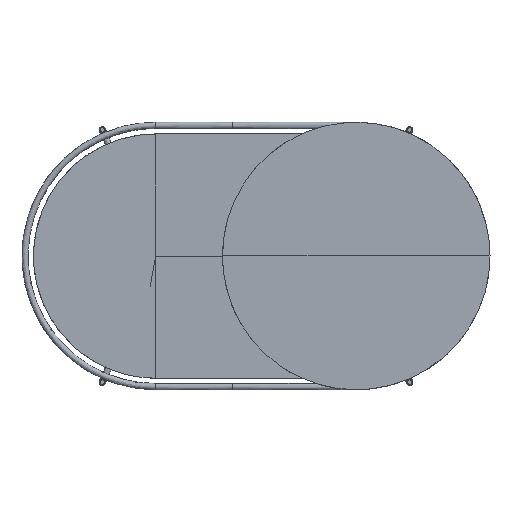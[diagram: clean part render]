
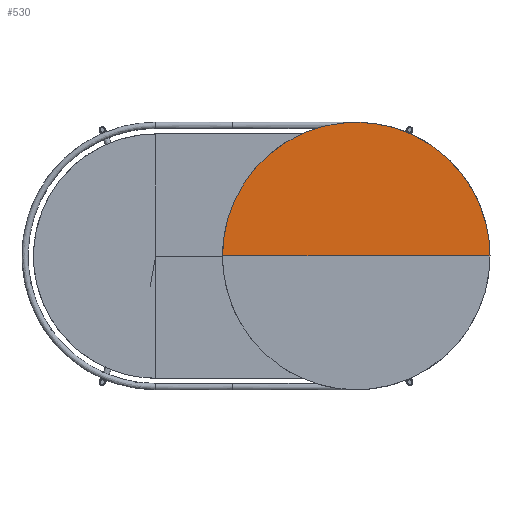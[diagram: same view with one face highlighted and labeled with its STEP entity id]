
A CAD part, top view. The second image highlights one B-rep face of the part: STEP entity #530.
In plain terms, the highlighted free-form (B-spline) face has degree [2, 2] with [5, 3] control points.
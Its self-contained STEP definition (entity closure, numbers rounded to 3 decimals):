
#530=ADVANCED_FACE('',(#737),#2941,.T.);
#737=FACE_OUTER_BOUND('',#944,.T.);
#944=EDGE_LOOP('',(#1151,#1152,#1153));
#1151=ORIENTED_EDGE('',*,*,#2020,.T.);
#1152=ORIENTED_EDGE('',*,*,#2015,.F.);
#1153=ORIENTED_EDGE('',*,*,#2013,.F.);
#2013=EDGE_CURVE('',#2677,#2679,#2444,.T.);
#2015=EDGE_CURVE('',#2679,#2682,#2446,.T.);
#2020=EDGE_CURVE('',#2677,#2682,#2451,.T.);
#2444=(
BOUNDED_CURVE()
B_SPLINE_CURVE(2,(#3550,#3551,#3552),.UNSPECIFIED.,.F.,.F.)
B_SPLINE_CURVE_WITH_KNOTS((3,3),(0.,300.),.UNSPECIFIED.)
CURVE()
GEOMETRIC_REPRESENTATION_ITEM()
RATIONAL_B_SPLINE_CURVE((1.,1.,1.))
REPRESENTATION_ITEM('')
);
#2446=(
BOUNDED_CURVE()
B_SPLINE_CURVE(2,(#3564,#3565,#3566,#3567,#3568),.UNSPECIFIED.,.F.,.F.)
B_SPLINE_CURVE_WITH_KNOTS((3,2,3),(0.,471.01,942.019),
 .UNSPECIFIED.)
CURVE()
GEOMETRIC_REPRESENTATION_ITEM()
RATIONAL_B_SPLINE_CURVE((1.,0.707,1.,0.707,1.))
REPRESENTATION_ITEM('')
);
#2451=(
BOUNDED_CURVE()
B_SPLINE_CURVE(2,(#3629,#3630,#3631),.UNSPECIFIED.,.F.,.F.)
B_SPLINE_CURVE_WITH_KNOTS((3,3),(0.,300.),.UNSPECIFIED.)
CURVE()
GEOMETRIC_REPRESENTATION_ITEM()
RATIONAL_B_SPLINE_CURVE((1.,1.,1.))
REPRESENTATION_ITEM('')
);
#2677=VERTEX_POINT('',#3542);
#2679=VERTEX_POINT('',#3544);
#2682=VERTEX_POINT('',#3547);
#2941=(
BOUNDED_SURFACE()
B_SPLINE_SURFACE(2,2,((#3258,#3259,#3260),(#3261,#3262,#3263),(#3264,#3265,
#3266),(#3267,#3268,#3269),(#3270,#3271,#3272)),.UNSPECIFIED.,.F.,.F.,.F.)
B_SPLINE_SURFACE_WITH_KNOTS((3,2,3),(3,3),(0.,471.01,942.019),
(0.,300.),.UNSPECIFIED.)
GEOMETRIC_REPRESENTATION_ITEM()
RATIONAL_B_SPLINE_SURFACE(((1.,1.,1.),(0.707,0.707,
0.707),(1.,1.,1.),(0.707,0.707,0.707),
(1.,1.,1.)))
REPRESENTATION_ITEM('')
SURFACE()
);
#3258=CARTESIAN_POINT('',(225.788,1.354,385.513));
#3259=CARTESIAN_POINT('',(75.788,1.354,385.513));
#3260=CARTESIAN_POINT('',(-74.212,1.354,385.513));
#3261=CARTESIAN_POINT('',(225.788,1.354,385.513));
#3262=CARTESIAN_POINT('',(75.788,151.354,385.513));
#3263=CARTESIAN_POINT('',(-74.212,301.354,385.513));
#3264=CARTESIAN_POINT('',(225.788,1.354,385.513));
#3265=CARTESIAN_POINT('',(225.788,151.354,385.513));
#3266=CARTESIAN_POINT('',(225.788,301.354,385.513));
#3267=CARTESIAN_POINT('',(225.788,1.354,385.513));
#3268=CARTESIAN_POINT('',(375.788,151.354,385.513));
#3269=CARTESIAN_POINT('',(525.788,301.354,385.513));
#3270=CARTESIAN_POINT('',(225.788,1.354,385.513));
#3271=CARTESIAN_POINT('',(375.788,1.354,385.513));
#3272=CARTESIAN_POINT('',(525.788,1.354,385.513));
#3542=CARTESIAN_POINT('',(225.788,1.354,385.513));
#3544=CARTESIAN_POINT('',(-74.212,1.354,385.513));
#3547=CARTESIAN_POINT('',(525.788,1.354,385.513));
#3550=CARTESIAN_POINT('',(225.788,1.354,385.513));
#3551=CARTESIAN_POINT('',(75.788,1.354,385.513));
#3552=CARTESIAN_POINT('',(-74.212,1.354,385.513));
#3564=CARTESIAN_POINT('',(-74.212,1.354,385.513));
#3565=CARTESIAN_POINT('',(-74.212,301.354,385.513));
#3566=CARTESIAN_POINT('',(225.788,301.354,385.513));
#3567=CARTESIAN_POINT('',(525.788,301.354,385.513));
#3568=CARTESIAN_POINT('',(525.788,1.354,385.513));
#3629=CARTESIAN_POINT('',(225.788,1.354,385.513));
#3630=CARTESIAN_POINT('',(375.788,1.354,385.513));
#3631=CARTESIAN_POINT('',(525.788,1.354,385.513));
